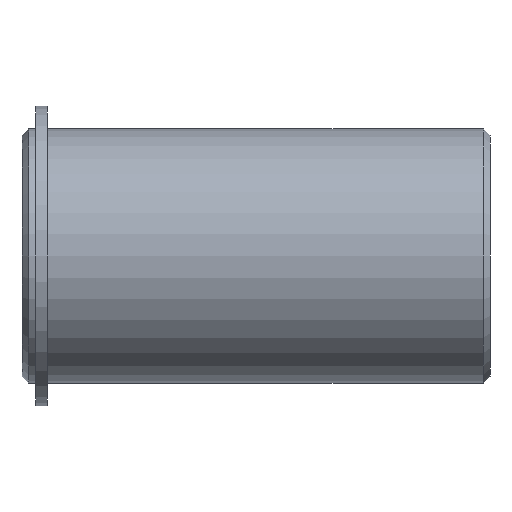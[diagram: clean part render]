
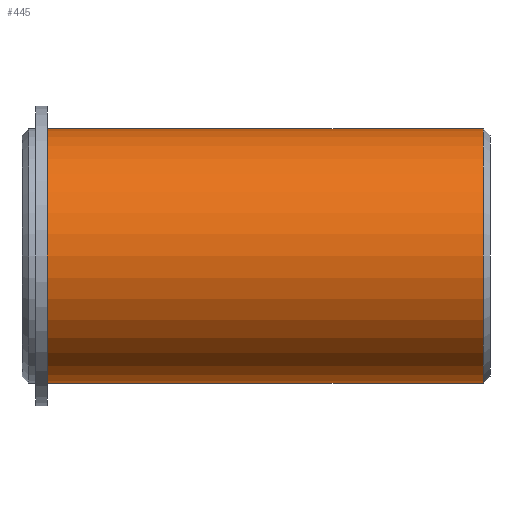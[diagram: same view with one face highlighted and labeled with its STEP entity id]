
A CAD part, front view. The second image highlights one B-rep face of the part: STEP entity #445.
In plain terms, the highlighted cylindrical face has radius 19 mm (diameter 38 mm), a partial arc.
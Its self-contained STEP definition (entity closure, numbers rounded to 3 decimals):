
#18 = ORIENTED_EDGE ( 'NONE', *, *, #203, .F. ) ;
#62 = CARTESIAN_POINT ( 'NONE',  ( 69., 0., 19. ) ) ;
#70 = FACE_OUTER_BOUND ( 'NONE', #270, .T. ) ;
#74 = DIRECTION ( 'NONE',  ( -1., 0., 0. ) ) ;
#76 = CIRCLE ( 'NONE', #368, 19. ) ;
#81 = DIRECTION ( 'NONE',  ( 0., 0., 1. ) ) ;
#85 = LINE ( 'NONE', #266, #318 ) ;
#112 = CARTESIAN_POINT ( 'NONE',  ( 3.8, 0., -19. ) ) ;
#122 = VERTEX_POINT ( 'NONE', #175 ) ;
#175 = CARTESIAN_POINT ( 'NONE',  ( 3.8, 0., 19. ) ) ;
#176 = VECTOR ( 'NONE', #361, 1000. ) ;
#184 = EDGE_CURVE ( 'NONE', #533, #122, #504, .T. ) ;
#185 = CARTESIAN_POINT ( 'NONE',  ( 0., 0., 19. ) ) ;
#189 = DIRECTION ( 'NONE',  ( 0., 0., 1. ) ) ;
#203 = EDGE_CURVE ( 'NONE', #463, #533, #85, .T. ) ;
#212 = CYLINDRICAL_SURFACE ( 'NONE', #272, 19. ) ;
#223 = EDGE_CURVE ( 'NONE', #463, #477, #76, .T. ) ;
#266 = CARTESIAN_POINT ( 'NONE',  ( 0., 0., -19. ) ) ;
#270 = EDGE_LOOP ( 'NONE', ( #18, #544, #363, #402 ) ) ;
#272 = AXIS2_PLACEMENT_3D ( 'NONE', #407, #453, #189 ) ;
#274 = EDGE_CURVE ( 'NONE', #477, #122, #297, .T. ) ;
#297 = LINE ( 'NONE', #185, #176 ) ;
#318 = VECTOR ( 'NONE', #559, 1000. ) ;
#338 = AXIS2_PLACEMENT_3D ( 'NONE', #430, #74, #390 ) ;
#355 = CARTESIAN_POINT ( 'NONE',  ( 69., 0., 0. ) ) ;
#361 = DIRECTION ( 'NONE',  ( -1., 0., 0. ) ) ;
#363 = ORIENTED_EDGE ( 'NONE', *, *, #274, .T. ) ;
#368 = AXIS2_PLACEMENT_3D ( 'NONE', #355, #525, #81 ) ;
#390 = DIRECTION ( 'NONE',  ( 0., 0., 1. ) ) ;
#402 = ORIENTED_EDGE ( 'NONE', *, *, #184, .F. ) ;
#407 = CARTESIAN_POINT ( 'NONE',  ( 0., 0., 0. ) ) ;
#430 = CARTESIAN_POINT ( 'NONE',  ( 3.8, 0., 0. ) ) ;
#445 = ADVANCED_FACE ( 'NONE', ( #70 ), #212, .T. ) ;
#453 = DIRECTION ( 'NONE',  ( -1., 0., 0. ) ) ;
#463 = VERTEX_POINT ( 'NONE', #464 ) ;
#464 = CARTESIAN_POINT ( 'NONE',  ( 69., 0., -19. ) ) ;
#477 = VERTEX_POINT ( 'NONE', #62 ) ;
#504 = CIRCLE ( 'NONE', #338, 19. ) ;
#525 = DIRECTION ( 'NONE',  ( -1., 0., 0. ) ) ;
#533 = VERTEX_POINT ( 'NONE', #112 ) ;
#544 = ORIENTED_EDGE ( 'NONE', *, *, #223, .T. ) ;
#559 = DIRECTION ( 'NONE',  ( -1., 0., 0. ) ) ;
